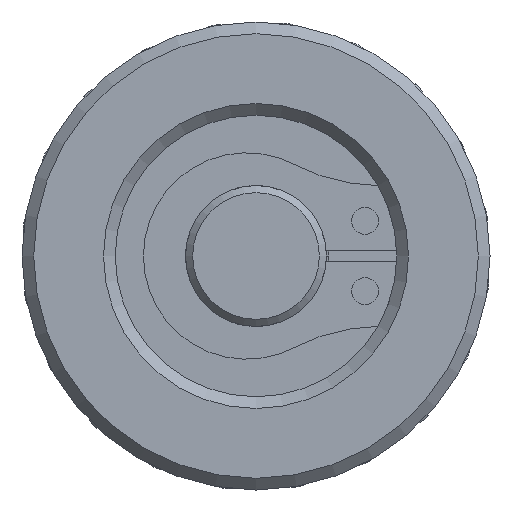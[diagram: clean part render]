
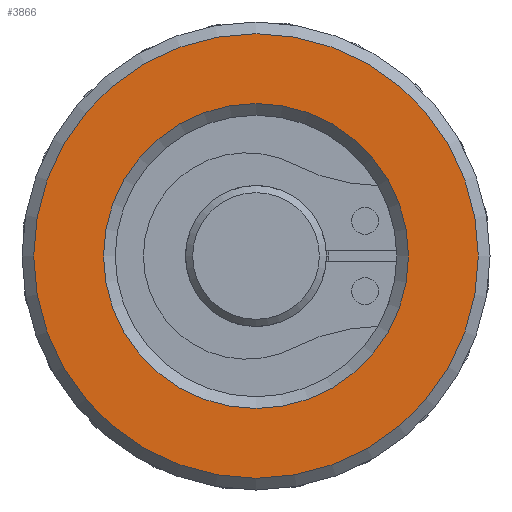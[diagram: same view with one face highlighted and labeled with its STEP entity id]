
A CAD part, front view. The second image highlights one B-rep face of the part: STEP entity #3866.
In plain terms, the highlighted planar face has unit normal (0, -1, 0).
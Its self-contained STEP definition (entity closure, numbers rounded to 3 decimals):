
#346=FACE_BOUND('',#1090,.T.);
#347=FACE_BOUND('',#1091,.T.);
#379=PLANE('',#4385);
#1090=EDGE_LOOP('',(#3078));
#1091=EDGE_LOOP('',(#3079));
#1288=CIRCLE('',#4384,9.475);
#1289=CIRCLE('',#4386,6.5);
#1826=VERTEX_POINT('',#7840);
#1827=VERTEX_POINT('',#7843);
#2241=EDGE_CURVE('',#1826,#1826,#1288,.T.);
#2242=EDGE_CURVE('',#1827,#1827,#1289,.T.);
#3078=ORIENTED_EDGE('',*,*,#2242,.F.);
#3079=ORIENTED_EDGE('',*,*,#2241,.F.);
#3866=ADVANCED_FACE('',(#346,#347),#379,.T.);
#4384=AXIS2_PLACEMENT_3D('',#7841,#5522,#5523);
#4385=AXIS2_PLACEMENT_3D('',#7842,#5524,#5525);
#4386=AXIS2_PLACEMENT_3D('',#7844,#5526,#5527);
#5522=DIRECTION('center_axis',(0.,1.,0.));
#5523=DIRECTION('ref_axis',(-1.,0.,0.));
#5524=DIRECTION('center_axis',(0.,-1.,0.));
#5525=DIRECTION('ref_axis',(0.,0.,-1.));
#5526=DIRECTION('center_axis',(0.,-1.,0.));
#5527=DIRECTION('ref_axis',(-1.,0.,0.));
#7840=CARTESIAN_POINT('',(9.475,-28.5,0.));
#7841=CARTESIAN_POINT('Origin',(0.,-28.5,0.));
#7842=CARTESIAN_POINT('Origin',(7.988,-28.5,0.));
#7843=CARTESIAN_POINT('',(6.5,-28.5,0.));
#7844=CARTESIAN_POINT('Origin',(0.,-28.5,0.));
